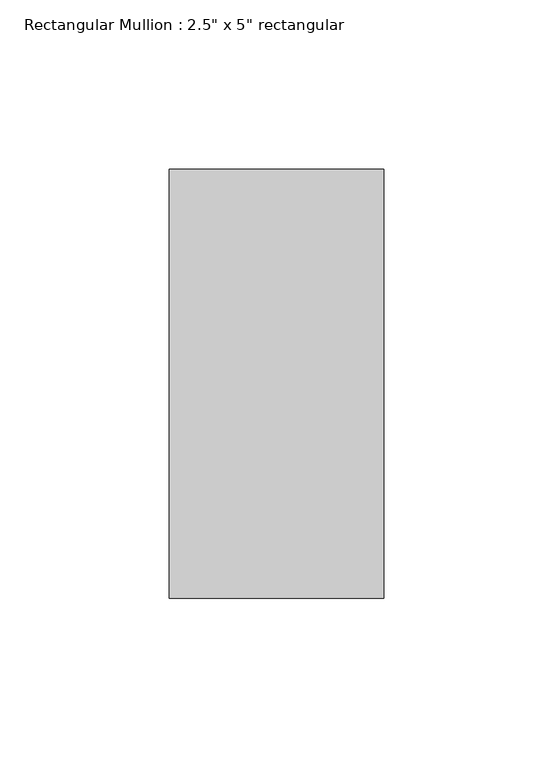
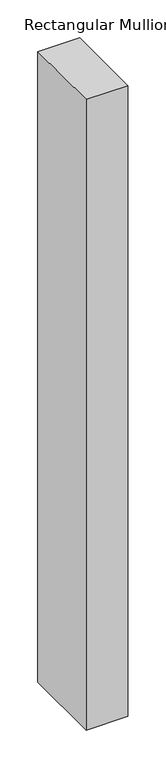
"""IFC4 building model written with IfcOpenShell, lengths in millimetres: member geometry."""

from ifc_helpers import new_model, si_unit, frame, origin, place, context, project, spatial, polyline, outline, extrude, source, transform, mapped, element, save


def member_8e09d03a(model_context):
    return source(origin(), model_context, "Body", "SweptSolid", [
        extrude(outline(polyline([(0.0, 63.5), (0.0, -63.5), (-63.5, -63.5), (-63.5, 63.5), (0.0, 63.5)])), frame((0.0, 0.0, -1016.0), z_axis=(0.0, 0.0, 1.0), x_axis=(1.0, 0.0, 0.0)), (0.0, 0.0, 1.0), 1016.0),
    ])


if __name__ == "__main__":
    model = new_model("IFC4")
    model_context = context("Model", 3, world=origin())
    ifc_project = project(units=[si_unit("LENGTHUNIT", "METRE", prefix="MILLI")], contexts=[model_context])
    site = spatial("IfcSite", under=ifc_project)
    building = spatial("IfcBuilding", under=site)
    placement = place(None, origin())
    member_shape = member_8e09d03a(model_context)
    element("IfcMember", 1, ObjectType="Rectangular Mullion : 2.5\" x 5\" rectangular", at=placement, inside=building, context=model_context, shape_type="MappedRepresentation", body=[
        mapped(member_shape, transform((0.0, 0.0, 0.0), x_axis=(1.0, 0.0, 0.0), y_axis=(0.0, 1.0, 0.0), z_axis=(0.0, 0.0, 1.0))),
    ])
    save(model, "model.ifc")
